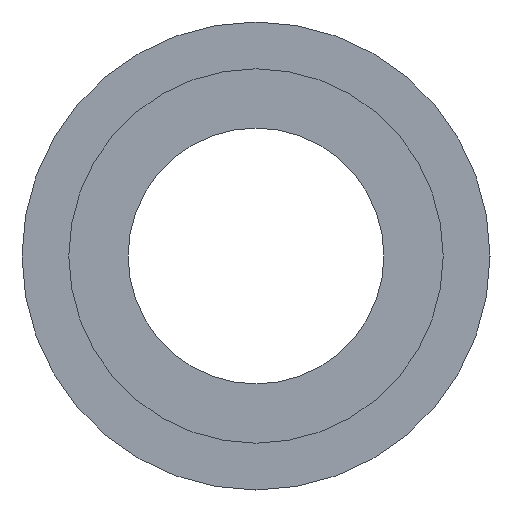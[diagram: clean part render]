
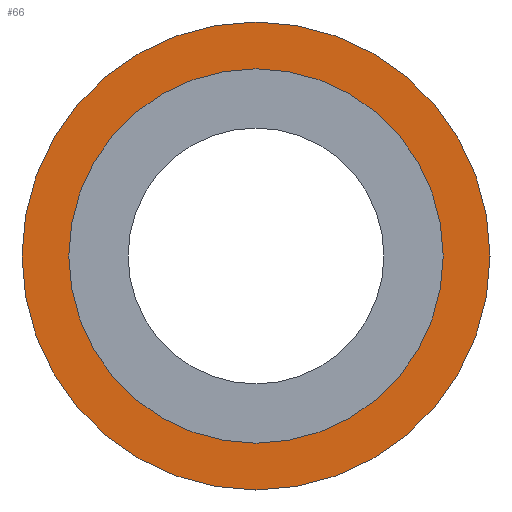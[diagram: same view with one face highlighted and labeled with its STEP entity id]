
A CAD part, left-side view. The second image highlights one B-rep face of the part: STEP entity #66.
In plain terms, the highlighted planar face has unit normal (-1, 0, 0).
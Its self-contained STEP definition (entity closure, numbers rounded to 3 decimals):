
#6 = CARTESIAN_POINT ( 'NONE',  ( 0., 0., 0. ) ) ;
#12 = AXIS2_PLACEMENT_3D ( 'NONE', #488, #62, #343 ) ;
#20 = CIRCLE ( 'NONE', #235, 37.5 ) ;
#41 = DIRECTION ( 'NONE',  ( -1., 0., 0. ) ) ;
#61 = ORIENTED_EDGE ( 'NONE', *, *, #206, .T. ) ;
#62 = DIRECTION ( 'NONE',  ( -1., 0., 0. ) ) ;
#66 = ADVANCED_FACE ( 'NONE', ( #394, #373 ), #388, .F. ) ;
#71 = EDGE_CURVE ( 'NONE', #257, #688, #118, .T. ) ;
#75 = DIRECTION ( 'NONE',  ( 0., 0., 1. ) ) ;
#98 = CIRCLE ( 'NONE', #559, 30. ) ;
#103 = EDGE_CURVE ( 'NONE', #688, #257, #98, .T. ) ;
#118 = CIRCLE ( 'NONE', #392, 30. ) ;
#156 = CARTESIAN_POINT ( 'NONE',  ( 0., 0., -37.5 ) ) ;
#169 = EDGE_CURVE ( 'NONE', #439, #401, #184, .T. ) ;
#184 = CIRCLE ( 'NONE', #12, 37.5 ) ;
#206 = EDGE_CURVE ( 'NONE', #401, #439, #20, .T. ) ;
#235 = AXIS2_PLACEMENT_3D ( 'NONE', #6, #515, #252 ) ;
#252 = DIRECTION ( 'NONE',  ( 0., 0., 1. ) ) ;
#257 = VERTEX_POINT ( 'NONE', #332 ) ;
#312 = DIRECTION ( 'NONE',  ( -1., 0., 0. ) ) ;
#327 = ORIENTED_EDGE ( 'NONE', *, *, #103, .F. ) ;
#332 = CARTESIAN_POINT ( 'NONE',  ( 0., 0., -30. ) ) ;
#334 = CARTESIAN_POINT ( 'NONE',  ( 0., 0., 30. ) ) ;
#338 = ORIENTED_EDGE ( 'NONE', *, *, #71, .F. ) ;
#343 = DIRECTION ( 'NONE',  ( 0., 0., 1. ) ) ;
#362 = CARTESIAN_POINT ( 'NONE',  ( 0., 0., 0. ) ) ;
#365 = ORIENTED_EDGE ( 'NONE', *, *, #169, .T. ) ;
#373 = FACE_OUTER_BOUND ( 'NONE', #422, .T. ) ;
#383 = DIRECTION ( 'NONE',  ( 0., 0., 1. ) ) ;
#388 = PLANE ( 'NONE',  #427 ) ;
#392 = AXIS2_PLACEMENT_3D ( 'NONE', #362, #312, #75 ) ;
#394 = FACE_BOUND ( 'NONE', #663, .T. ) ;
#396 = CARTESIAN_POINT ( 'NONE',  ( 0., 0., 37.5 ) ) ;
#401 = VERTEX_POINT ( 'NONE', #156 ) ;
#422 = EDGE_LOOP ( 'NONE', ( #365, #61 ) ) ;
#427 = AXIS2_PLACEMENT_3D ( 'NONE', #452, #692, #522 ) ;
#439 = VERTEX_POINT ( 'NONE', #396 ) ;
#452 = CARTESIAN_POINT ( 'NONE',  ( 0., 37.5, 0. ) ) ;
#488 = CARTESIAN_POINT ( 'NONE',  ( 0., 0., 0. ) ) ;
#515 = DIRECTION ( 'NONE',  ( -1., 0., 0. ) ) ;
#522 = DIRECTION ( 'NONE',  ( 0., 0., -1. ) ) ;
#559 = AXIS2_PLACEMENT_3D ( 'NONE', #685, #41, #383 ) ;
#663 = EDGE_LOOP ( 'NONE', ( #327, #338 ) ) ;
#685 = CARTESIAN_POINT ( 'NONE',  ( 0., 0., 0. ) ) ;
#688 = VERTEX_POINT ( 'NONE', #334 ) ;
#692 = DIRECTION ( 'NONE',  ( 1., 0., 0. ) ) ;
